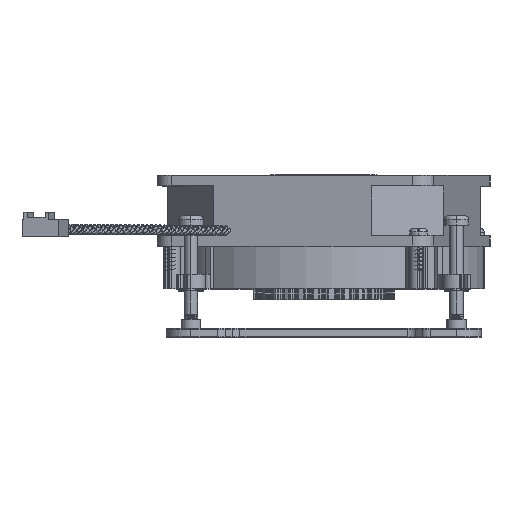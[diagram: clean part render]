
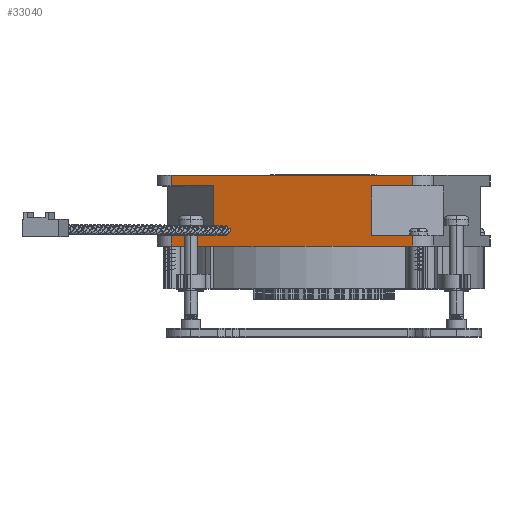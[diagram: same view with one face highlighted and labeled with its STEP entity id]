
A CAD part, top view. The second image highlights one B-rep face of the part: STEP entity #33040.
In plain terms, the highlighted planar face has unit normal (-0.225, 0, 0.974) as drawn and (0, 0, 1) by its records, which use the part's own axes.
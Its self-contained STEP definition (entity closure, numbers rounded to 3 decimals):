
#31834=DIRECTION('',(1.,0.,0.));
#31835=VECTOR('',#31834,12.353);
#31836=CARTESIAN_POINT('',(22.647,0.,40.));
#31837=LINE('',#31836,#31835);
#31861=DIRECTION('',(1.,0.,0.));
#31862=VECTOR('',#31861,70.);
#31863=CARTESIAN_POINT('',(-35.,3.,40.));
#31864=LINE('',#31863,#31862);
#31865=DIRECTION('',(-1.,0.,0.));
#31866=VECTOR('',#31865,70.);
#31867=CARTESIAN_POINT('',(35.,-17.,40.));
#31868=LINE('',#31867,#31866);
#31869=DIRECTION('',(0.,1.,0.));
#31870=VECTOR('',#31869,14.);
#31871=CARTESIAN_POINT('',(-23.094,-14.,40.));
#31872=LINE('',#31871,#31870);
#31882=DIRECTION('',(1.,0.,0.));
#31883=VECTOR('',#31882,11.906);
#31884=CARTESIAN_POINT('',(-35.,0.,40.));
#31885=LINE('',#31884,#31883);
#32068=DIRECTION('',(0.,-1.,0.));
#32069=VECTOR('',#32068,3.);
#32070=CARTESIAN_POINT('',(-35.,-14.,40.));
#32071=LINE('',#32070,#32069);
#32080=DIRECTION('',(-1.,0.,0.));
#32081=VECTOR('',#32080,11.906);
#32082=CARTESIAN_POINT('',(-23.094,-14.,40.));
#32083=LINE('',#32082,#32081);
#32119=DIRECTION('',(0.,1.,0.));
#32120=VECTOR('',#32119,3.);
#32121=CARTESIAN_POINT('',(35.,-17.,40.));
#32122=LINE('',#32121,#32120);
#32136=DIRECTION('',(-1.,0.,0.));
#32137=VECTOR('',#32136,12.353);
#32138=CARTESIAN_POINT('',(35.,-14.,40.));
#32139=LINE('',#32138,#32137);
#32150=DIRECTION('',(0.,1.,0.));
#32151=VECTOR('',#32150,14.);
#32152=CARTESIAN_POINT('',(22.647,-14.,40.));
#32153=LINE('',#32152,#32151);
#32501=DIRECTION('',(0.,-1.,0.));
#32502=VECTOR('',#32501,3.);
#32503=CARTESIAN_POINT('',(-35.,3.,40.));
#32504=LINE('',#32503,#32502);
#32513=DIRECTION('',(0.,1.,0.));
#32514=VECTOR('',#32513,3.);
#32515=CARTESIAN_POINT('',(35.,0.,40.));
#32516=LINE('',#32515,#32514);
#32543=CARTESIAN_POINT('',(35.,3.,40.));
#32544=VERTEX_POINT('',#32543);
#32545=CARTESIAN_POINT('',(-35.,3.,40.));
#32546=VERTEX_POINT('',#32545);
#32649=CARTESIAN_POINT('',(22.647,0.,40.));
#32650=CARTESIAN_POINT('',(35.,0.,40.));
#32651=VERTEX_POINT('',#32649);
#32652=VERTEX_POINT('',#32650);
#32657=CARTESIAN_POINT('',(-35.,0.,40.));
#32658=CARTESIAN_POINT('',(-23.094,0.,40.));
#32659=VERTEX_POINT('',#32657);
#32660=VERTEX_POINT('',#32658);
#32661=CARTESIAN_POINT('',(22.647,-14.,40.));
#32662=VERTEX_POINT('',#32661);
#32663=CARTESIAN_POINT('',(35.,-14.,40.));
#32664=VERTEX_POINT('',#32663);
#32665=CARTESIAN_POINT('',(35.,-17.,40.));
#32666=VERTEX_POINT('',#32665);
#32667=CARTESIAN_POINT('',(-35.,-17.,40.));
#32668=VERTEX_POINT('',#32667);
#32669=CARTESIAN_POINT('',(-35.,-14.,40.));
#32670=VERTEX_POINT('',#32669);
#32671=CARTESIAN_POINT('',(-23.094,-14.,40.));
#32672=VERTEX_POINT('',#32671);
#33011=CARTESIAN_POINT('',(-35.,3.,40.));
#33012=DIRECTION('',(0.,0.,-1.));
#33013=DIRECTION('',(-1.,0.,0.));
#33014=AXIS2_PLACEMENT_3D('',#33011,#33012,#33013);
#33015=PLANE('',#33014);
#33017=ORIENTED_EDGE('',*,*,#33016,.F.);
#33019=ORIENTED_EDGE('',*,*,#33018,.F.);
#33020=ORIENTED_EDGE('',*,*,#32828,.T.);
#33022=ORIENTED_EDGE('',*,*,#33021,.F.);
#33023=ORIENTED_EDGE('',*,*,#32995,.F.);
#33025=ORIENTED_EDGE('',*,*,#33024,.F.);
#33027=ORIENTED_EDGE('',*,*,#33026,.F.);
#33029=ORIENTED_EDGE('',*,*,#33028,.F.);
#33031=ORIENTED_EDGE('',*,*,#33030,.T.);
#33033=ORIENTED_EDGE('',*,*,#33032,.F.);
#33035=ORIENTED_EDGE('',*,*,#33034,.F.);
#33037=ORIENTED_EDGE('',*,*,#33036,.T.);
#33038=EDGE_LOOP('',(#33017,#33019,#33020,#33022,#33023,#33025,#33027,#33029,
#33031,#33033,#33035,#33037));
#33039=FACE_OUTER_BOUND('',#33038,.F.);
#33040=ADVANCED_FACE('',(#33039),#33015,.F.);
#32828=EDGE_CURVE('',#32546,#32544,#31864,.T.);
#32995=EDGE_CURVE('',#32651,#32652,#31837,.T.);
#33016=EDGE_CURVE('',#32659,#32660,#31885,.T.);
#33018=EDGE_CURVE('',#32546,#32659,#32504,.T.);
#33021=EDGE_CURVE('',#32652,#32544,#32516,.T.);
#33024=EDGE_CURVE('',#32662,#32651,#32153,.T.);
#33026=EDGE_CURVE('',#32664,#32662,#32139,.T.);
#33028=EDGE_CURVE('',#32666,#32664,#32122,.T.);
#33030=EDGE_CURVE('',#32666,#32668,#31868,.T.);
#33032=EDGE_CURVE('',#32670,#32668,#32071,.T.);
#33034=EDGE_CURVE('',#32672,#32670,#32083,.T.);
#33036=EDGE_CURVE('',#32672,#32660,#31872,.T.);
